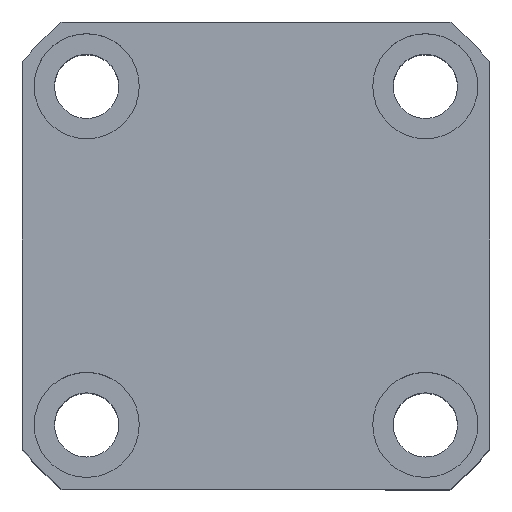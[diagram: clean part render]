
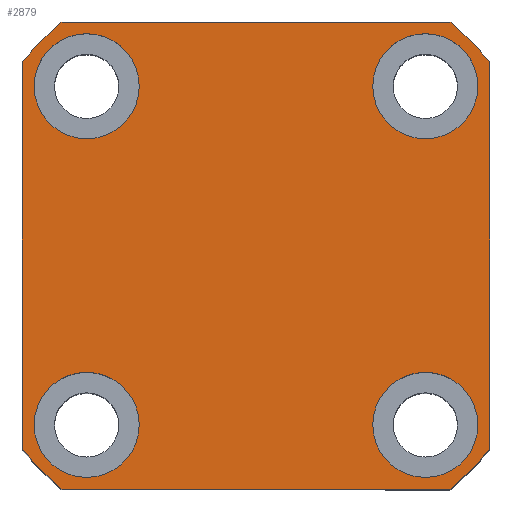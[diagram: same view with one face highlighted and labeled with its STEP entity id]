
A CAD part, top view. The second image highlights one B-rep face of the part: STEP entity #2879.
In plain terms, the highlighted planar face has unit normal (0, 0, 1).
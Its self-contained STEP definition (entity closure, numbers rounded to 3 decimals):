
#90 = EDGE_CURVE ( 'NONE', #3415, #5004, #5275, .T. ) ;
#132 = CARTESIAN_POINT ( 'NONE',  ( -29., -29., 45. ) ) ;
#159 = DIRECTION ( 'NONE',  ( 1., 0., 0. ) ) ;
#239 = ORIENTED_EDGE ( 'NONE', *, *, #10487, .F. ) ;
#243 = DIRECTION ( 'NONE',  ( 0., 1., 0. ) ) ;
#357 = AXIS2_PLACEMENT_3D ( 'NONE', #132, #2334, #10262 ) ;
#405 = CIRCLE ( 'NONE', #11796, 52. ) ;
#472 = AXIS2_PLACEMENT_3D ( 'NONE', #4361, #1974, #6485 ) ;
#554 = ORIENTED_EDGE ( 'NONE', *, *, #14378, .T. ) ;
#928 = CIRCLE ( 'NONE', #2086, 52. ) ;
#1001 = ORIENTED_EDGE ( 'NONE', *, *, #8099, .F. ) ;
#1130 = DIRECTION ( 'NONE',  ( 0., 0., 1. ) ) ;
#1132 = CIRCLE ( 'NONE', #5131, 9. ) ;
#1247 = EDGE_LOOP ( 'NONE', ( #4629, #554, #5385, #6183, #7413, #14392, #11854, #9681 ) ) ;
#1286 = VECTOR ( 'NONE', #2215, 1000. ) ;
#1363 = VERTEX_POINT ( 'NONE', #5140 ) ;
#1424 = DIRECTION ( 'NONE',  ( 0., 0., 1. ) ) ;
#1505 = CARTESIAN_POINT ( 'NONE',  ( 40., 33.226, 45. ) ) ;
#1652 = EDGE_CURVE ( 'NONE', #11331, #2917, #928, .T. ) ;
#1702 = ORIENTED_EDGE ( 'NONE', *, *, #9726, .F. ) ;
#1756 = DIRECTION ( 'NONE',  ( 1., 0., 0. ) ) ;
#1911 = EDGE_CURVE ( 'NONE', #13656, #14492, #10153, .T. ) ;
#1974 = DIRECTION ( 'NONE',  ( 0., 0., 1. ) ) ;
#1993 = DIRECTION ( 'NONE',  ( 0., -1., 0. ) ) ;
#2086 = AXIS2_PLACEMENT_3D ( 'NONE', #4608, #1130, #9078 ) ;
#2171 = ORIENTED_EDGE ( 'NONE', *, *, #10750, .F. ) ;
#2197 = EDGE_CURVE ( 'NONE', #7890, #8234, #405, .T. ) ;
#2215 = DIRECTION ( 'NONE',  ( 1., 0., 0. ) ) ;
#2276 = AXIS2_PLACEMENT_3D ( 'NONE', #3669, #1424, #10496 ) ;
#2286 = VECTOR ( 'NONE', #243, 1000. ) ;
#2296 = AXIS2_PLACEMENT_3D ( 'NONE', #12158, #6320, #11011 ) ;
#2334 = DIRECTION ( 'NONE',  ( 0., 0., 1. ) ) ;
#2471 = DIRECTION ( 'NONE',  ( 0., 0., 1. ) ) ;
#2558 = VERTEX_POINT ( 'NONE', #14341 ) ;
#2603 = CIRCLE ( 'NONE', #6529, 52. ) ;
#2786 = EDGE_CURVE ( 'NONE', #2917, #5795, #10520, .T. ) ;
#2879 = ADVANCED_FACE ( 'NONE', ( #6776, #11213, #14617, #13359, #9954 ), #8963, .T. ) ;
#2883 = VERTEX_POINT ( 'NONE', #7023 ) ;
#2917 = VERTEX_POINT ( 'NONE', #4839 ) ;
#2959 = VERTEX_POINT ( 'NONE', #9217 ) ;
#3053 = CIRCLE ( 'NONE', #357, 9. ) ;
#3063 = LINE ( 'NONE', #10795, #3256 ) ;
#3256 = VECTOR ( 'NONE', #8556, 1000. ) ;
#3407 = DIRECTION ( 'NONE',  ( 0., 0., 1. ) ) ;
#3409 = LINE ( 'NONE', #8849, #4829 ) ;
#3415 = VERTEX_POINT ( 'NONE', #5718 ) ;
#3591 = DIRECTION ( 'NONE',  ( 1., 0., 0. ) ) ;
#3669 = CARTESIAN_POINT ( 'NONE',  ( 29., 29., 45. ) ) ;
#3686 = DIRECTION ( 'NONE',  ( 1., 0., 0. ) ) ;
#3852 = ORIENTED_EDGE ( 'NONE', *, *, #1911, .F. ) ;
#3896 = EDGE_LOOP ( 'NONE', ( #4562, #10246 ) ) ;
#4361 = CARTESIAN_POINT ( 'NONE',  ( -29., 29., 45. ) ) ;
#4562 = ORIENTED_EDGE ( 'NONE', *, *, #13346, .F. ) ;
#4575 = CARTESIAN_POINT ( 'NONE',  ( 33.226, 40., 45. ) ) ;
#4608 = CARTESIAN_POINT ( 'NONE',  ( 0., 0., 45. ) ) ;
#4629 = ORIENTED_EDGE ( 'NONE', *, *, #2197, .T. ) ;
#4829 = VECTOR ( 'NONE', #1993, 1000. ) ;
#4839 = CARTESIAN_POINT ( 'NONE',  ( -33.226, -40., 45. ) ) ;
#5004 = VERTEX_POINT ( 'NONE', #7092 ) ;
#5034 = DIRECTION ( 'NONE',  ( 0., 0., 1. ) ) ;
#5131 = AXIS2_PLACEMENT_3D ( 'NONE', #7921, #11388, #13685 ) ;
#5140 = CARTESIAN_POINT ( 'NONE',  ( -20., 29., 45. ) ) ;
#5275 = LINE ( 'NONE', #1505, #2286 ) ;
#5332 = EDGE_LOOP ( 'NONE', ( #239, #14274 ) ) ;
#5382 = EDGE_CURVE ( 'NONE', #5004, #14609, #2603, .T. ) ;
#5385 = ORIENTED_EDGE ( 'NONE', *, *, #1652, .T. ) ;
#5518 = VERTEX_POINT ( 'NONE', #12481 ) ;
#5718 = CARTESIAN_POINT ( 'NONE',  ( 40., -33.226, 45. ) ) ;
#5795 = VERTEX_POINT ( 'NONE', #11766 ) ;
#5816 = AXIS2_PLACEMENT_3D ( 'NONE', #10693, #11884, #1756 ) ;
#5868 = CARTESIAN_POINT ( 'NONE',  ( -20., -29., 45. ) ) ;
#6010 = CARTESIAN_POINT ( 'NONE',  ( 29., 29., 45. ) ) ;
#6101 = AXIS2_PLACEMENT_3D ( 'NONE', #12744, #2471, #6916 ) ;
#6180 = DIRECTION ( 'NONE',  ( 1., 0., 0. ) ) ;
#6183 = ORIENTED_EDGE ( 'NONE', *, *, #2786, .T. ) ;
#6320 = DIRECTION ( 'NONE',  ( 0., 0., 1. ) ) ;
#6485 = DIRECTION ( 'NONE',  ( 1., 0., 0. ) ) ;
#6529 = AXIS2_PLACEMENT_3D ( 'NONE', #13525, #3407, #159 ) ;
#6776 = FACE_BOUND ( 'NONE', #3896, .T. ) ;
#6916 = DIRECTION ( 'NONE',  ( 1., 0., 0. ) ) ;
#6935 = AXIS2_PLACEMENT_3D ( 'NONE', #12009, #5034, #6180 ) ;
#7023 = CARTESIAN_POINT ( 'NONE',  ( 20., -29., 45. ) ) ;
#7092 = CARTESIAN_POINT ( 'NONE',  ( 40., 33.226, 45. ) ) ;
#7413 = ORIENTED_EDGE ( 'NONE', *, *, #11513, .T. ) ;
#7592 = CARTESIAN_POINT ( 'NONE',  ( -38., -29., 45. ) ) ;
#7701 = CARTESIAN_POINT ( 'NONE',  ( 20., 29., 45. ) ) ;
#7791 = DIRECTION ( 'NONE',  ( 0., 0., 1. ) ) ;
#7890 = VERTEX_POINT ( 'NONE', #11263 ) ;
#7903 = CIRCLE ( 'NONE', #13992, 9. ) ;
#7921 = CARTESIAN_POINT ( 'NONE',  ( -29., 29., 45. ) ) ;
#8099 = EDGE_CURVE ( 'NONE', #14492, #13656, #3053, .T. ) ;
#8234 = VERTEX_POINT ( 'NONE', #12607 ) ;
#8266 = EDGE_LOOP ( 'NONE', ( #2171, #1702 ) ) ;
#8294 = CARTESIAN_POINT ( 'NONE',  ( 29., -29., 45. ) ) ;
#8338 = CARTESIAN_POINT ( 'NONE',  ( -40., -33.226, 45. ) ) ;
#8556 = DIRECTION ( 'NONE',  ( -1., 0., 0. ) ) ;
#8841 = CARTESIAN_POINT ( 'NONE',  ( 0., 0., 45. ) ) ;
#8849 = CARTESIAN_POINT ( 'NONE',  ( -40., 33.226, 45. ) ) ;
#8963 = PLANE ( 'NONE',  #6101 ) ;
#9078 = DIRECTION ( 'NONE',  ( 1., 0., 0. ) ) ;
#9217 = CARTESIAN_POINT ( 'NONE',  ( -38., 29., 45. ) ) ;
#9475 = CIRCLE ( 'NONE', #2276, 9. ) ;
#9681 = ORIENTED_EDGE ( 'NONE', *, *, #12866, .T. ) ;
#9726 = EDGE_CURVE ( 'NONE', #11687, #2558, #9475, .T. ) ;
#9954 = FACE_OUTER_BOUND ( 'NONE', #1247, .T. ) ;
#10095 = AXIS2_PLACEMENT_3D ( 'NONE', #8294, #10569, #3686 ) ;
#10153 = CIRCLE ( 'NONE', #6935, 9. ) ;
#10241 = CARTESIAN_POINT ( 'NONE',  ( -33.226, -40., 45. ) ) ;
#10246 = ORIENTED_EDGE ( 'NONE', *, *, #14081, .F. ) ;
#10262 = DIRECTION ( 'NONE',  ( 1., 0., 0. ) ) ;
#10487 = EDGE_CURVE ( 'NONE', #1363, #2959, #11271, .T. ) ;
#10496 = DIRECTION ( 'NONE',  ( 1., 0., 0. ) ) ;
#10519 = DIRECTION ( 'NONE',  ( 0., 0., 1. ) ) ;
#10520 = LINE ( 'NONE', #10241, #1286 ) ;
#10569 = DIRECTION ( 'NONE',  ( 0., 0., 1. ) ) ;
#10693 = CARTESIAN_POINT ( 'NONE',  ( 29., -29., 45. ) ) ;
#10750 = EDGE_CURVE ( 'NONE', #2558, #11687, #7903, .T. ) ;
#10795 = CARTESIAN_POINT ( 'NONE',  ( -33.226, 40., 45. ) ) ;
#11011 = DIRECTION ( 'NONE',  ( 1., 0., 0. ) ) ;
#11029 = CIRCLE ( 'NONE', #10095, 9. ) ;
#11120 = EDGE_CURVE ( 'NONE', #2959, #1363, #1132, .T. ) ;
#11213 = FACE_BOUND ( 'NONE', #13281, .T. ) ;
#11255 = CIRCLE ( 'NONE', #2296, 52. ) ;
#11263 = CARTESIAN_POINT ( 'NONE',  ( -33.226, 40., 45. ) ) ;
#11271 = CIRCLE ( 'NONE', #472, 9. ) ;
#11331 = VERTEX_POINT ( 'NONE', #8338 ) ;
#11388 = DIRECTION ( 'NONE',  ( 0., 0., 1. ) ) ;
#11513 = EDGE_CURVE ( 'NONE', #5795, #3415, #11255, .T. ) ;
#11687 = VERTEX_POINT ( 'NONE', #7701 ) ;
#11766 = CARTESIAN_POINT ( 'NONE',  ( 33.226, -40., 45. ) ) ;
#11796 = AXIS2_PLACEMENT_3D ( 'NONE', #8841, #7791, #13561 ) ;
#11854 = ORIENTED_EDGE ( 'NONE', *, *, #5382, .T. ) ;
#11884 = DIRECTION ( 'NONE',  ( 0., 0., 1. ) ) ;
#12009 = CARTESIAN_POINT ( 'NONE',  ( -29., -29., 45. ) ) ;
#12158 = CARTESIAN_POINT ( 'NONE',  ( 0., 0., 45. ) ) ;
#12481 = CARTESIAN_POINT ( 'NONE',  ( 38., -29., 45. ) ) ;
#12490 = CIRCLE ( 'NONE', #5816, 9. ) ;
#12607 = CARTESIAN_POINT ( 'NONE',  ( -40., 33.226, 45. ) ) ;
#12744 = CARTESIAN_POINT ( 'NONE',  ( 0., 0., 45. ) ) ;
#12866 = EDGE_CURVE ( 'NONE', #14609, #7890, #3063, .T. ) ;
#13281 = EDGE_LOOP ( 'NONE', ( #3852, #1001 ) ) ;
#13346 = EDGE_CURVE ( 'NONE', #5518, #2883, #12490, .T. ) ;
#13359 = FACE_BOUND ( 'NONE', #8266, .T. ) ;
#13525 = CARTESIAN_POINT ( 'NONE',  ( 0., 0., 45. ) ) ;
#13561 = DIRECTION ( 'NONE',  ( 1., 0., 0. ) ) ;
#13656 = VERTEX_POINT ( 'NONE', #5868 ) ;
#13685 = DIRECTION ( 'NONE',  ( 1., 0., 0. ) ) ;
#13992 = AXIS2_PLACEMENT_3D ( 'NONE', #6010, #10519, #3591 ) ;
#14081 = EDGE_CURVE ( 'NONE', #2883, #5518, #11029, .T. ) ;
#14274 = ORIENTED_EDGE ( 'NONE', *, *, #11120, .F. ) ;
#14341 = CARTESIAN_POINT ( 'NONE',  ( 38., 29., 45. ) ) ;
#14378 = EDGE_CURVE ( 'NONE', #8234, #11331, #3409, .T. ) ;
#14392 = ORIENTED_EDGE ( 'NONE', *, *, #90, .T. ) ;
#14492 = VERTEX_POINT ( 'NONE', #7592 ) ;
#14609 = VERTEX_POINT ( 'NONE', #4575 ) ;
#14617 = FACE_BOUND ( 'NONE', #5332, .T. ) ;
